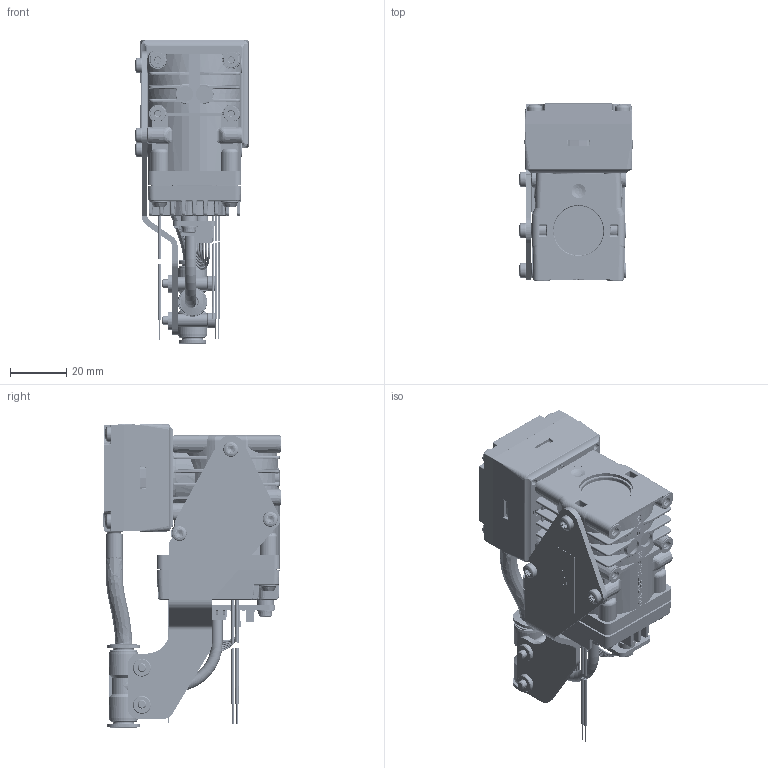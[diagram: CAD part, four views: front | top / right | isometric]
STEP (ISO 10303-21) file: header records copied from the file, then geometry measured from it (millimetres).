
FILE_DESCRIPTION((''),'2;1');
FILE_NAME('CAD1194278_SW','2026-09-15T13:16:35',('LuternauerR'),('KNF Flodos AG, 6210 Sursee, Switzerland'),'CREO PARAMETRIC BY PTC INC, 2025010','CREO PARAMETRIC BY PTC INC, 2025010','');
FILE_SCHEMA(('AP242_MANAGED_MODEL_BASED_3D_ENGINEERING_MIM_LF { 1 0 10303 442 1 1 4 }'));
Products named in the file (1): CAD1194278_SW
Bounding box: 40.2 x 63.1 x 108.05 mm (x, y, z)
Volume: 107341.1 mm3; surface area: 39641.7 mm2
Topology: 10 solids, 12 shells, 6333 faces, 16613 edges, 10488 vertices
Faces by surface type: plane 3223, cylinder 1336, bspline 659, extrusion 367, torus 292, cone 280, sphere 176
Full cylindrical faces by diameter (mm): 0.4 x1
Entity records: 335925 total; most frequent: CARTESIAN_POINT 144906, ORIENTED_EDGE 33158, DIRECTION 27838, EDGE_CURVE 16579, VERTEX_POINT 10488, VECTOR 10448, LINE 10081, AXIS2_PLACEMENT_3D 8695
